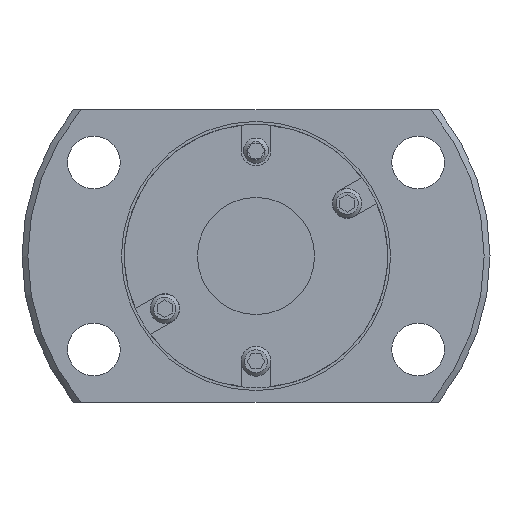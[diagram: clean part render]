
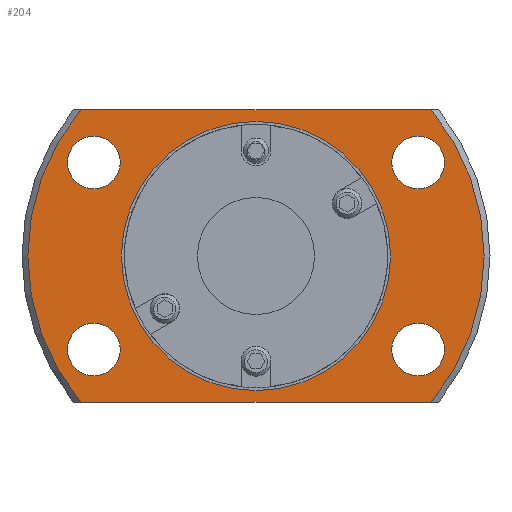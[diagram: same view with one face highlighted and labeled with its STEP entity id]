
A CAD part, left-side view. The second image highlights one B-rep face of the part: STEP entity #204.
In plain terms, the highlighted planar face has unit normal (-1, 0, 0).
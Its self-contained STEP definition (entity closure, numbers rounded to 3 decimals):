
#204 = ADVANCED_FACE( '', ( #340, #341, #342, #343, #344, #345 ), #346, .F. );
#340 = FACE_OUTER_BOUND( '', #549, .T. );
#341 = FACE_BOUND( '', #550, .T. );
#342 = FACE_BOUND( '', #551, .T. );
#343 = FACE_BOUND( '', #552, .T. );
#344 = FACE_BOUND( '', #553, .T. );
#345 = FACE_BOUND( '', #554, .T. );
#346 = PLANE( '', #555 );
#549 = EDGE_LOOP( '', ( #950, #951, #952, #953 ) );
#550 = EDGE_LOOP( '', ( #954 ) );
#551 = EDGE_LOOP( '', ( #955 ) );
#552 = EDGE_LOOP( '', ( #956 ) );
#553 = EDGE_LOOP( '', ( #957 ) );
#554 = EDGE_LOOP( '', ( #958 ) );
#555 = AXIS2_PLACEMENT_3D( '', #959, #960, #961 );
#950 = ORIENTED_EDGE( '', *, *, #1292, .F. );
#951 = ORIENTED_EDGE( '', *, *, #1395, .T. );
#952 = ORIENTED_EDGE( '', *, *, #1396, .F. );
#953 = ORIENTED_EDGE( '', *, *, #1291, .T. );
#954 = ORIENTED_EDGE( '', *, *, #1397, .T. );
#955 = ORIENTED_EDGE( '', *, *, #1398, .T. );
#956 = ORIENTED_EDGE( '', *, *, #1399, .T. );
#957 = ORIENTED_EDGE( '', *, *, #1400, .T. );
#958 = ORIENTED_EDGE( '', *, *, #1401, .T. );
#959 = CARTESIAN_POINT( '', ( 22., 11.25, 0. ) );
#960 = DIRECTION( '', ( 1., 0., 0. ) );
#961 = DIRECTION( '', ( 0., 0., -1. ) );
#1291 = EDGE_CURVE( '', #1466, #1478, #1480, .T. );
#1292 = EDGE_CURVE( '', #1481, #1478, #1482, .T. );
#1395 = EDGE_CURVE( '', #1481, #1663, #1664, .T. );
#1396 = EDGE_CURVE( '', #1466, #1663, #1665, .T. );
#1397 = EDGE_CURVE( '', #1666, #1666, #1667, .T. );
#1398 = EDGE_CURVE( '', #1668, #1668, #1669, .T. );
#1399 = EDGE_CURVE( '', #1670, #1670, #1671, .T. );
#1400 = EDGE_CURVE( '', #1672, #1672, #1673, .T. );
#1401 = EDGE_CURVE( '', #1674, #1674, #1675, .T. );
#1466 = VERTEX_POINT( '', #1774 );
#1478 = VERTEX_POINT( '', #1798 );
#1480 = LINE( '', #1803, #1804 );
#1481 = VERTEX_POINT( '', #1805 );
#1482 = CIRCLE( '', #1806, 19.5 );
#1663 = VERTEX_POINT( '', #2061 );
#1664 = LINE( '', #2062, #2063 );
#1665 = CIRCLE( '', #2064, 19.5 );
#1666 = VERTEX_POINT( '', #2065 );
#1667 = CIRCLE( '', #2066, 2.25 );
#1668 = VERTEX_POINT( '', #2067 );
#1669 = CIRCLE( '', #2068, 2.25 );
#1670 = VERTEX_POINT( '', #2069 );
#1671 = CIRCLE( '', #2070, 2.25 );
#1672 = VERTEX_POINT( '', #2071 );
#1673 = CIRCLE( '', #2072, 2.25 );
#1674 = VERTEX_POINT( '', #2073 );
#1675 = CIRCLE( '', #2074, 11.25 );
#1774 = CARTESIAN_POINT( '', ( 22., -14.967, 12.5 ) );
#1798 = CARTESIAN_POINT( '', ( 22., 14.967, 12.5 ) );
#1803 = CARTESIAN_POINT( '', ( 22., 11.25, 12.5 ) );
#1804 = VECTOR( '', #2224, 1000. );
#1805 = CARTESIAN_POINT( '', ( 22., 14.967, -12.5 ) );
#1806 = AXIS2_PLACEMENT_3D( '', #2225, #2226, #2227 );
#2061 = CARTESIAN_POINT( '', ( 22., -14.967, -12.5 ) );
#2062 = CARTESIAN_POINT( '', ( 22., 11.25, -12.5 ) );
#2063 = VECTOR( '', #2395, 1000. );
#2064 = AXIS2_PLACEMENT_3D( '', #2396, #2397, #2398 );
#2065 = CARTESIAN_POINT( '', ( 22., -13.856, 5.75 ) );
#2066 = AXIS2_PLACEMENT_3D( '', #2399, #2400, #2401 );
#2067 = CARTESIAN_POINT( '', ( 22., -13.856, -10.25 ) );
#2068 = AXIS2_PLACEMENT_3D( '', #2402, #2403, #2404 );
#2069 = CARTESIAN_POINT( '', ( 22., 13.856, -10.25 ) );
#2070 = AXIS2_PLACEMENT_3D( '', #2405, #2406, #2407 );
#2071 = CARTESIAN_POINT( '', ( 22., 13.856, 5.75 ) );
#2072 = AXIS2_PLACEMENT_3D( '', #2408, #2409, #2410 );
#2073 = CARTESIAN_POINT( '', ( 22., 0., -11.25 ) );
#2074 = AXIS2_PLACEMENT_3D( '', #2411, #2412, #2413 );
#2224 = DIRECTION( '', ( 0., 1., 0. ) );
#2225 = CARTESIAN_POINT( '', ( 22., 0., 0. ) );
#2226 = DIRECTION( '', ( 1., 0., 0. ) );
#2227 = DIRECTION( '', ( 0., 0., -1. ) );
#2395 = DIRECTION( '', ( 0., -1., 0. ) );
#2396 = CARTESIAN_POINT( '', ( 22., 0., 0. ) );
#2397 = DIRECTION( '', ( 1., 0., 0. ) );
#2398 = DIRECTION( '', ( 0., 0., -1. ) );
#2399 = CARTESIAN_POINT( '', ( 22., -13.856, 8. ) );
#2400 = DIRECTION( '', ( 1., 0., 0. ) );
#2401 = DIRECTION( '', ( 0., 0., -1. ) );
#2402 = CARTESIAN_POINT( '', ( 22., -13.856, -8. ) );
#2403 = DIRECTION( '', ( 1., 0., 0. ) );
#2404 = DIRECTION( '', ( 0., 0., -1. ) );
#2405 = CARTESIAN_POINT( '', ( 22., 13.856, -8. ) );
#2406 = DIRECTION( '', ( 1., 0., 0. ) );
#2407 = DIRECTION( '', ( 0., 0., -1. ) );
#2408 = CARTESIAN_POINT( '', ( 22., 13.856, 8. ) );
#2409 = DIRECTION( '', ( 1., 0., 0. ) );
#2410 = DIRECTION( '', ( 0., 0., -1. ) );
#2411 = CARTESIAN_POINT( '', ( 22., 0., 0. ) );
#2412 = DIRECTION( '', ( 1., 0., 0. ) );
#2413 = DIRECTION( '', ( 0., 0., -1. ) );
